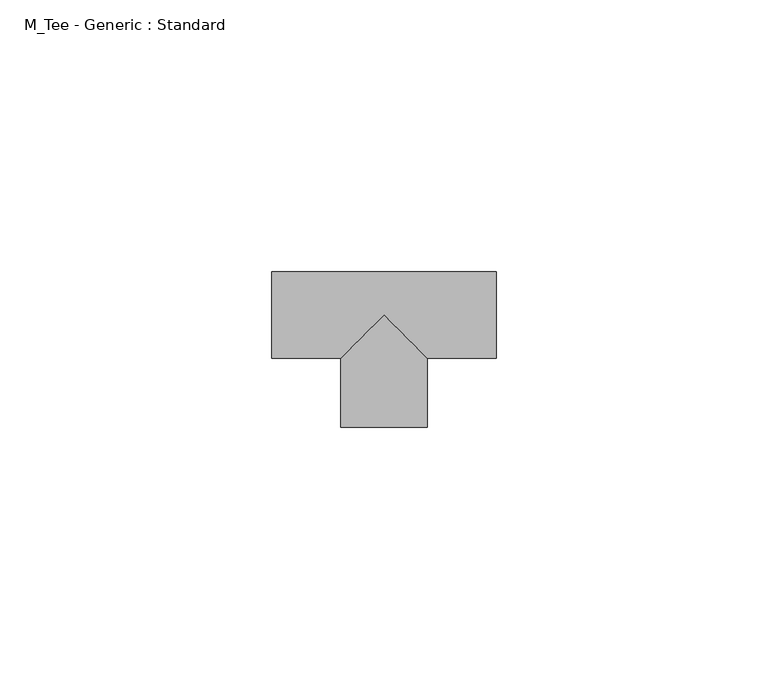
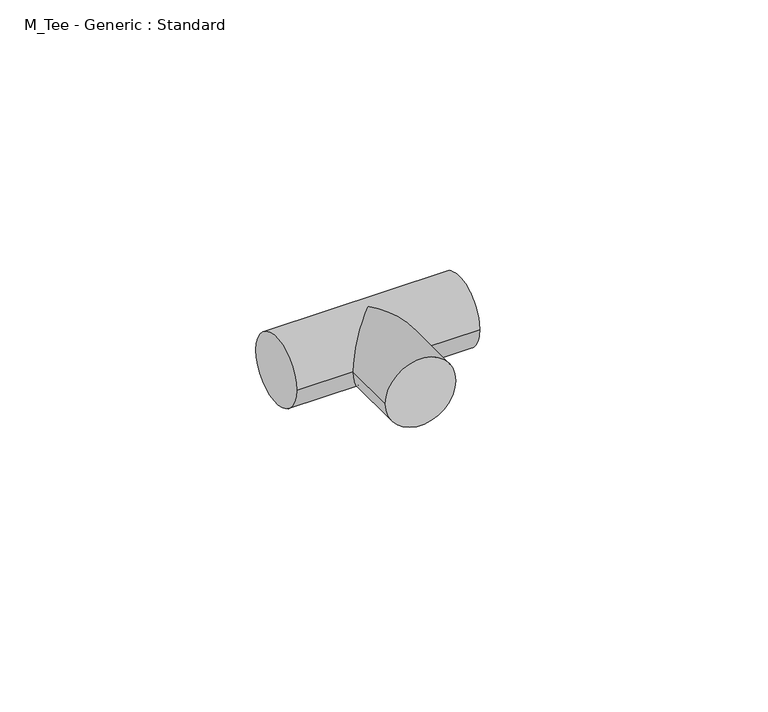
"""IFC4 building model written with IfcOpenShell, lengths in millimetres: pipe fitting geometry, M_Tee - Generic : Standard."""

from ifc_helpers import new_model, si_unit, frame, origin, place, context, project, spatial, circle_curve, ellipse_curve, source, transform, mapped, element, save
from ifc_brep_helpers import plane_surface, cylinder_surface, advanced_brep


def m_tee_generic_standard_5b2ed4d4(model_context):
    return source(origin(), model_context, "Body", "AdvancedBrep", [
        advanced_brep(
        [(-20.6375, -7.9375, 0.0), (-20.6375, 7.9375, 0.0), (20.6375, -7.9375, 0.0), (20.6375, 7.9375, 0.0), (-7.9375, -7.9375, 0.0), (0.0, 0.0, 7.9375), (7.9375, -7.9375, 0.0), (0.0, 0.0, -7.9375), (-7.9375, -20.6375, 0.0), (7.9375, -20.6375, 0.0)],
        [
            (0, 1, circle_curve(frame((-20.6375, 0.0, 0.0), z_axis=(-1.0, 0.0, 0.0), x_axis=(0.0, 1.0, 0.0)), 7.9375)),
            (1, 0, circle_curve(frame((-20.6375, 0.0, 0.0), z_axis=(-1.0, 0.0, 0.0), x_axis=(0.0, 1.0, 0.0)), 7.9375)),
            (2, 3, circle_curve(frame((20.6375, 0.0, 0.0), z_axis=(1.0, 0.0, 0.0), x_axis=(0.0, 1.0, 0.0)), 7.9375)),
            (3, 2, circle_curve(frame((20.6375, 0.0, 0.0), z_axis=(1.0, 0.0, 0.0), x_axis=(0.0, 1.0, 0.0)), 7.9375)),
            (0, 4),
            (4, 5, ellipse_curve(frame((0.0, 0.0, 0.0), z_axis=(-0.707106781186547, 0.7071067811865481, 0.0), x_axis=(-0.707106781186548, -0.707106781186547, 0.0)), 11.2253202, 7.9375)),
            (5, 6, ellipse_curve(frame((0.0, 0.0, 0.0), z_axis=(0.707106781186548, 0.7071067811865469, 0.0), x_axis=(-0.707106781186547, 0.707106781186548, 0.0)), 11.2253202, 7.9375)),
            (6, 2),
            (3, 1),
            (6, 7, ellipse_curve(frame((0.0, 0.0, 0.0), z_axis=(0.707106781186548, 0.7071067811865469, 0.0), x_axis=(-0.707106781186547, 0.707106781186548, 0.0)), 11.2253202, 7.9375)),
            (7, 4, ellipse_curve(frame((0.0, 0.0, 0.0), z_axis=(-0.707106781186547, 0.7071067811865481, 0.0), x_axis=(-0.707106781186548, -0.707106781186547, 0.0)), 11.2253202, 7.9375)),
            (8, 9, circle_curve(frame((0.0, -20.6375, 0.0), z_axis=(0.0, -1.0, 0.0), x_axis=(1.0, 0.0, 0.0)), 7.9375)),
            (9, 8, circle_curve(frame((0.0, -20.6375, 0.0), z_axis=(0.0, -1.0, 0.0), x_axis=(1.0, 0.0, 0.0)), 7.9375)),
            (9, 6),
            (4, 8),
        ],
        [
            plane_surface(frame((-20.6375, 0.0, 0.0), z_axis=(-1.0, 0.0, 0.0), x_axis=(0.0, 0.0, 1.0))),
            plane_surface(frame((20.6375, 0.0, 0.0), z_axis=(1.0, 0.0, 0.0), x_axis=(0.0, 0.0, 1.0))),
            cylinder_surface(frame((-20.6375, 0.0, 0.0), z_axis=(-1.0, 0.0, 0.0), x_axis=(0.0, 1.0, 0.0)), 7.9375),
            plane_surface(frame((0.0, -20.6375, 0.0), z_axis=(0.0, -1.0, 0.0), x_axis=(0.0, 0.0, 1.0))),
            cylinder_surface(frame((0.0, 0.0, 0.0), z_axis=(0.0, 1.0, 0.0), x_axis=(1.0, 0.0, 0.0)), 7.9375),
        ],
        [
            (0, [[1, 2]]),
            (1, [[3, 4]]),
            (2, [[-1, 5, 6, 7, 8, -4, 9]]),
            (2, [[-2, -9, -3, -8, 10, 11, -5]]),
            (3, [[12, 13]]),
            (4, [[-13, 14, -7, -6, 15]]),
            (4, [[-12, -15, -11, -10, -14]]),
        ],
    ),
    ])


if __name__ == "__main__":
    model = new_model("IFC4")
    model_context = context("Model", 3, world=origin())
    ifc_project = project(units=[si_unit("LENGTHUNIT", "METRE", prefix="MILLI")], contexts=[model_context])
    site = spatial("IfcSite", under=ifc_project)
    building = spatial("IfcBuilding", under=site)
    placement = place(None, origin())
    m_tee_generic_standard_shape = m_tee_generic_standard_5b2ed4d4(model_context)
    element("IfcPipeFitting", 1, ObjectType="M_Tee - Generic : Standard", at=placement, inside=building, context=model_context, shape_type="MappedRepresentation", body=[
        mapped(m_tee_generic_standard_shape, transform((0.0, 0.0, 0.0), x_axis=(1.0, 0.0, 0.0), y_axis=(0.0, 1.0, 0.0), z_axis=(0.0, 0.0, 1.0))),
    ])
    save(model, "model.ifc")
